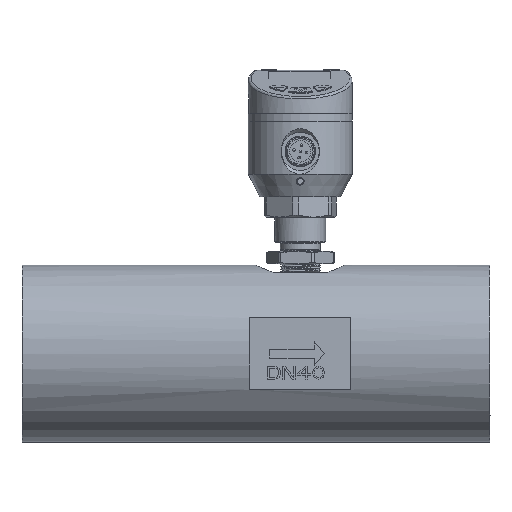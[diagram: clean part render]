
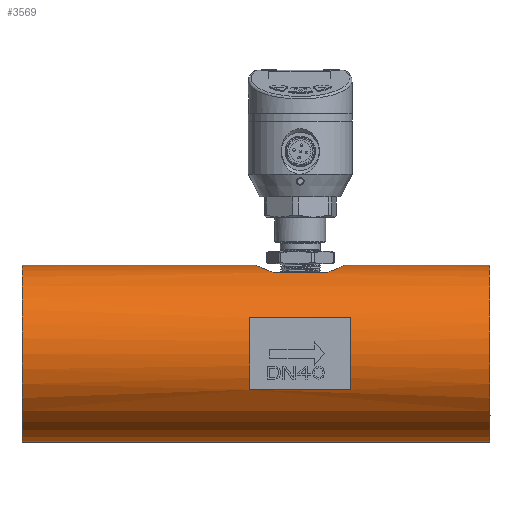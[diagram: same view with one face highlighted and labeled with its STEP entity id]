
A CAD part, left-side view. The second image highlights one B-rep face of the part: STEP entity #3569.
In plain terms, the highlighted cylindrical face has radius 35 mm (diameter 70 mm), a full revolution.
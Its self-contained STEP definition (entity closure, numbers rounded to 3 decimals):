
#1925=LINE('',#16824,#2612);
#1926=LINE('',#16829,#2613);
#1927=LINE('',#16835,#2614);
#1928=LINE('',#16839,#2615);
#1929=LINE('',#16840,#2616);
#1930=LINE('',#16853,#2617);
#2612=VECTOR('',#11572,1.);
#2613=VECTOR('',#11575,1.);
#2614=VECTOR('',#11580,1.);
#2615=VECTOR('',#11583,1.);
#2616=VECTOR('',#11584,1.);
#2617=VECTOR('',#11585,1.);
#3360=FACE_BOUND('',#4736,.T.);
#3361=FACE_BOUND('',#4737,.T.);
#3362=FACE_BOUND('',#4738,.T.);
#3363=FACE_BOUND('',#4739,.T.);
#3364=FACE_BOUND('',#4740,.T.);
#3569=ADVANCED_FACE('',(#3360,#3361,#3362,#3363,#3364),#4103,.T.);
#4103=CYLINDRICAL_SURFACE('',#10686,35.);
#4736=EDGE_LOOP('',(#5836));
#4737=EDGE_LOOP('',(#5837));
#4738=EDGE_LOOP('',(#5838,#5839,#5840,#5841));
#4739=EDGE_LOOP('',(#5842,#5843,#5844,#5845));
#4740=EDGE_LOOP('',(#5846,#5847,#5848,#5849));
#5375=CIRCLE('',#10679,35.);
#5376=CIRCLE('',#10681,35.);
#5377=CIRCLE('',#10682,35.);
#5378=CIRCLE('',#10683,35.);
#5379=CIRCLE('',#10684,35.);
#5380=CIRCLE('',#10685,35.);
#5836=ORIENTED_EDGE('',*,*,#9208,.T.);
#5837=ORIENTED_EDGE('',*,*,#9209,.T.);
#5838=ORIENTED_EDGE('',*,*,#9210,.F.);
#5839=ORIENTED_EDGE('',*,*,#9211,.T.);
#5840=ORIENTED_EDGE('',*,*,#9212,.F.);
#5841=ORIENTED_EDGE('',*,*,#9213,.T.);
#5842=ORIENTED_EDGE('',*,*,#9214,.T.);
#5843=ORIENTED_EDGE('',*,*,#9215,.F.);
#5844=ORIENTED_EDGE('',*,*,#9216,.T.);
#5845=ORIENTED_EDGE('',*,*,#9217,.F.);
#5846=ORIENTED_EDGE('',*,*,#9145,.F.);
#5847=ORIENTED_EDGE('',*,*,#9218,.F.);
#5848=ORIENTED_EDGE('',*,*,#9219,.F.);
#5849=ORIENTED_EDGE('',*,*,#9220,.F.);
#8301=VERTEX_POINT('',#13956);
#8302=VERTEX_POINT('',#13957);
#8344=VERTEX_POINT('',#16820);
#8345=VERTEX_POINT('',#16823);
#8346=VERTEX_POINT('',#16825);
#8347=VERTEX_POINT('',#16826);
#8348=VERTEX_POINT('',#16828);
#8349=VERTEX_POINT('',#16830);
#8350=VERTEX_POINT('',#16833);
#8351=VERTEX_POINT('',#16834);
#8352=VERTEX_POINT('',#16836);
#8353=VERTEX_POINT('',#16838);
#8354=VERTEX_POINT('',#16841);
#8355=VERTEX_POINT('',#16852);
#9145=EDGE_CURVE('',#8301,#8302,#10431,.T.);
#9208=EDGE_CURVE('',#8344,#8344,#5375,.T.);
#9209=EDGE_CURVE('',#8345,#8345,#5376,.T.);
#9210=EDGE_CURVE('',#8346,#8347,#1925,.T.);
#9211=EDGE_CURVE('',#8346,#8348,#5377,.T.);
#9212=EDGE_CURVE('',#8349,#8348,#1926,.T.);
#9213=EDGE_CURVE('',#8349,#8347,#5378,.T.);
#9214=EDGE_CURVE('',#8350,#8351,#5379,.T.);
#9215=EDGE_CURVE('',#8352,#8351,#1927,.T.);
#9216=EDGE_CURVE('',#8352,#8353,#5380,.T.);
#9217=EDGE_CURVE('',#8350,#8353,#1928,.T.);
#9218=EDGE_CURVE('',#8354,#8301,#1929,.T.);
#9219=EDGE_CURVE('',#8355,#8354,#10483,.T.);
#9220=EDGE_CURVE('',#8302,#8355,#1930,.T.);
#10431=B_SPLINE_CURVE_WITH_KNOTS('',3,(#13946,#13947,#13948,#13949,#13950,
#13951,#13952,#13953,#13954,#13955),.UNSPECIFIED.,.F.,.F.,(4,2,2,2,4),(0.,
0.25,0.5,0.75,1.),.UNSPECIFIED.);
#10483=B_SPLINE_CURVE_WITH_KNOTS('',3,(#16842,#16843,#16844,#16845,#16846,
#16847,#16848,#16849,#16850,#16851),.UNSPECIFIED.,.F.,.F.,(4,2,2,2,4),(0.,
0.25,0.5,0.75,1.),.UNSPECIFIED.);
#10679=AXIS2_PLACEMENT_3D('',#16819,#11566,#11567);
#10681=AXIS2_PLACEMENT_3D('',#16822,#11570,#11571);
#10682=AXIS2_PLACEMENT_3D('',#16827,#11573,#11574);
#10683=AXIS2_PLACEMENT_3D('',#16831,#11576,#11577);
#10684=AXIS2_PLACEMENT_3D('',#16832,#11578,#11579);
#10685=AXIS2_PLACEMENT_3D('',#16837,#11581,#11582);
#10686=AXIS2_PLACEMENT_3D('',#16854,#11586,#11587);
#11566=DIRECTION('',(0.,1.,0.));
#11567=DIRECTION('',(-1.,0.,0.));
#11570=DIRECTION('',(0.,-1.,0.));
#11571=DIRECTION('',(-1.,0.,0.));
#11572=DIRECTION('',(0.,-1.,0.));
#11573=DIRECTION('',(0.,1.,0.));
#11574=DIRECTION('',(1.,0.,0.));
#11575=DIRECTION('',(0.,1.,0.));
#11576=DIRECTION('',(0.,-1.,0.));
#11577=DIRECTION('',(0.914,0.,-0.405));
#11578=DIRECTION('',(0.,1.,0.));
#11579=DIRECTION('',(-0.914,0.,-0.405));
#11580=DIRECTION('',(0.,1.,0.));
#11581=DIRECTION('',(0.,-1.,0.));
#11582=DIRECTION('',(-1.,0.,0.));
#11583=DIRECTION('',(0.,-1.,0.));
#11584=DIRECTION('',(0.,-1.,0.));
#11585=DIRECTION('',(0.,1.,0.));
#11586=DIRECTION('',(0.,-1.,0.));
#11587=DIRECTION('',(-1.,0.,0.));
#13946=CARTESIAN_POINT('',(11.323,26.141,-94.));
#13947=CARTESIAN_POINT('',(12.929,23.92,-93.288));
#13948=CARTESIAN_POINT('',(15.025,22.118,-92.511));
#13949=CARTESIAN_POINT('',(19.877,19.604,-91.365));
#13950=CARTESIAN_POINT('',(22.66,18.901,-91.));
#13951=CARTESIAN_POINT('',(28.334,18.899,-91.));
#13952=CARTESIAN_POINT('',(31.108,19.598,-91.362));
#13953=CARTESIAN_POINT('',(35.974,22.115,-92.51));
#13954=CARTESIAN_POINT('',(38.07,23.92,-93.288));
#13955=CARTESIAN_POINT('',(39.677,26.141,-94.));
#13956=CARTESIAN_POINT('',(11.323,26.141,-94.));
#13957=CARTESIAN_POINT('',(39.677,26.141,-94.));
#16819=CARTESIAN_POINT('',(25.5,-38.6,-126.));
#16820=CARTESIAN_POINT('',(-9.5,-38.6,-126.));
#16822=CARTESIAN_POINT('',(25.5,146.4,-126.));
#16823=CARTESIAN_POINT('',(-9.5,146.4,-126.));
#16824=CARTESIAN_POINT('',(57.5,56.4,-111.823));
#16825=CARTESIAN_POINT('',(57.5,56.4,-111.823));
#16826=CARTESIAN_POINT('',(57.5,16.4,-111.823));
#16827=CARTESIAN_POINT('',(25.5,56.4,-126.));
#16828=CARTESIAN_POINT('',(57.5,56.4,-140.177));
#16829=CARTESIAN_POINT('',(57.5,16.4,-140.177));
#16830=CARTESIAN_POINT('',(57.5,16.4,-140.177));
#16831=CARTESIAN_POINT('',(25.5,16.4,-126.));
#16832=CARTESIAN_POINT('',(25.5,56.4,-126.));
#16833=CARTESIAN_POINT('',(-6.5,56.4,-140.177));
#16834=CARTESIAN_POINT('',(-6.5,56.4,-111.823));
#16835=CARTESIAN_POINT('',(-6.5,16.4,-111.823));
#16836=CARTESIAN_POINT('',(-6.5,16.4,-111.823));
#16837=CARTESIAN_POINT('',(25.5,16.4,-126.));
#16838=CARTESIAN_POINT('',(-6.5,16.4,-140.177));
#16839=CARTESIAN_POINT('',(-6.5,56.4,-140.177));
#16840=CARTESIAN_POINT('',(11.323,46.659,-94.));
#16841=CARTESIAN_POINT('',(11.323,46.659,-94.));
#16842=CARTESIAN_POINT('',(39.677,46.659,-94.));
#16843=CARTESIAN_POINT('',(38.071,48.88,-93.288));
#16844=CARTESIAN_POINT('',(35.975,50.682,-92.512));
#16845=CARTESIAN_POINT('',(31.123,53.196,-91.365));
#16846=CARTESIAN_POINT('',(28.332,53.895,-91.002));
#16847=CARTESIAN_POINT('',(22.728,53.905,-90.998));
#16848=CARTESIAN_POINT('',(19.91,53.209,-91.358));
#16849=CARTESIAN_POINT('',(15.031,50.689,-92.509));
#16850=CARTESIAN_POINT('',(12.93,48.881,-93.288));
#16851=CARTESIAN_POINT('',(11.323,46.659,-94.));
#16852=CARTESIAN_POINT('',(39.677,46.659,-94.));
#16853=CARTESIAN_POINT('',(39.677,26.141,-94.));
#16854=CARTESIAN_POINT('',(25.5,155.65,-126.));
